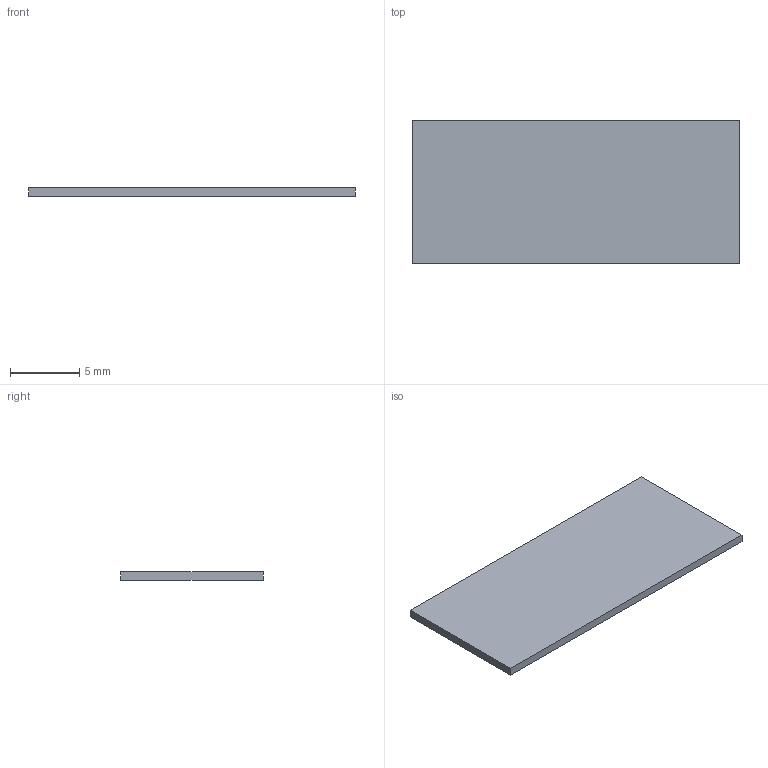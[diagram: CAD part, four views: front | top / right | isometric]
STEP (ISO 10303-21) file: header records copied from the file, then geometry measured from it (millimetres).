
FILE_DESCRIPTION(('Open CASCADE Model'),'2;1');
FILE_NAME('Open CASCADE Shape Model','2026-10-21T18:11:57',('Author'),( 'Open CASCADE'),'Open CASCADE STEP processor 8.0','build123d', 'Unknown');
FILE_SCHEMA(('AUTOMOTIVE_DESIGN { 1 0 10303 214 1 1 1 1 }'));
Length unit declared in the file: millimetre
Products named in the file (2): =>[0:1:1:2]; COMPOUND
Assembly tree (1 placements, depth 2):
  =>[0:1:1:2]
    COMPOUND
Bounding box: 23.6 x 10.3 x 0.6 mm (x, y, z)
Volume: 145.8 mm3; surface area: 526.8 mm2
Topology: 1 solids, 1 shells, 6 faces, 12 edges, 8 vertices
Faces by surface type: plane 6
Entity records: 340 total; most frequent: CARTESIAN_POINT 52, DIRECTION 52, LINE 36, VECTOR 36, ORIENTED_EDGE 24, PCURVE 24, DEFINITIONAL_REPRESENTATION 24, EDGE_CURVE 12
